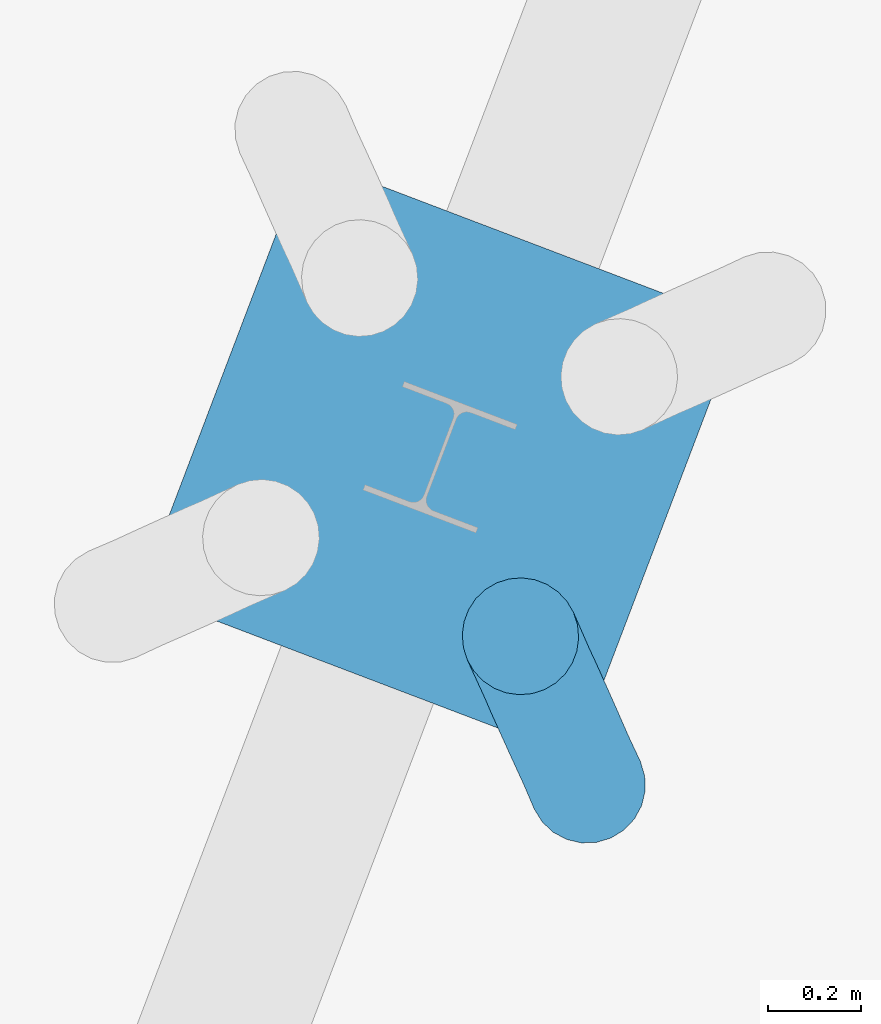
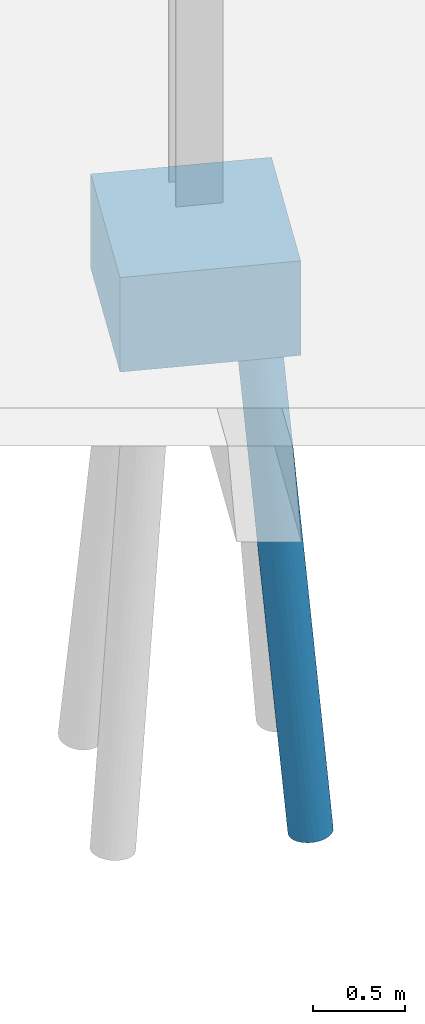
# One storey, part 14 of 46: 1 footing, 1 pile.
"""IFC2X3 building model written with IfcOpenShell, lengths in millimetres."""

from ifc_helpers import new_model, entity, si_unit, converted_unit, derived_unit, direction, frame, origin, origin_2d_with_axis, place, context, subcontext, project, spatial, rectangle, extrude, faceted_brep, source, transform, mapped, material, type_object, type_shapes, element, save


model = new_model("IFC2X3")

# Units and contexts
model_context = context("Model", 3, precision=0.01, world=origin(), true_north=direction((6.123233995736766e-17, 1.0)))
body_context = subcontext(model_context, "Body", "Model", "MODEL_VIEW")
ifc_project = project(units=[si_unit("LENGTHUNIT", "METRE", prefix="MILLI"), converted_unit("PLANEANGLEUNIT", "DEGREE", entity("IfcPlaneAngleMeasure", 0.017453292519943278), si_unit("PLANEANGLEUNIT", "RADIAN"), dimensions=[0, 0, 0, 0, 0, 0, 0]), si_unit("AREAUNIT", "SQUARE_METRE"), derived_unit("THERMALTRANSMITTANCEUNIT", [(si_unit("MASSUNIT", "GRAM", prefix="KILO"), 1), (si_unit("THERMODYNAMICTEMPERATUREUNIT", "KELVIN"), -1), (si_unit("TIMEUNIT", "SECOND"), -3)])], contexts=[model_context])

# Site, building, storey
site_placement = place(None, frame((-72937.88054949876, 11621.45624098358, 0.0), z_axis=(0.0, 0.0, 1.0), x_axis=(0.9346418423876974, -0.35559053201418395, 0.0)))
site = spatial("IfcSite", under=ifc_project, at=site_placement, Name="Default", CompositionType="ELEMENT")
building_placement = place(site_placement, origin())
building = spatial("IfcBuilding", under=site, at=building_placement, CompositionType="ELEMENT")
storey_placement = place(building_placement, origin())
storey = spatial("IfcBuildingStorey", under=building, at=storey_placement, Name="00 begane grond", CompositionType="ELEMENT", Elevation=0.0)

# Footing
ifc_material_1 = material(Name="beton_gewapend_ihw")
type_product_1 = type_object("IfcTypeProduct", Name="poer 1000x1000x800mm", material=ifc_material_1)
shared_shape_1 = source(origin(), body_context, "Body", "SweptSolid", [
    extrude(rectangle(XDim=999.999999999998, YDim=999.999999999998, at=origin_2d_with_axis()), frame((57570.0, 28760.0, -800.0), z_axis=(0.0, 0.0, 1.0), x_axis=(-1.0, 0.0, 0.0)), (0.0, 0.0, 1.0), 630.0000000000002),
])
type_shapes(type_product_1, [shared_shape_1])
footing_placement = place(storey_placement, frame((0.0, 0.0, -60.0)))
element("IfcFooting", 1, at=footing_placement, inside=storey, type_object=type_product_1, material=ifc_material_1, Name="16.13_Poer rechthoek", ObjectType="betonpoer rechthoekig", PredefinedType="PILE_CAP", context=body_context, shape_type="MappedRepresentation", body=[
    mapped(shared_shape_1, transform((0.0, 0.0, 0.0), scale=1.0)),
])

# Pile
ifc_material_2 = material(Name="beton_gewapend_prefab-element_c45/55")
type_product_2 = type_object("IfcTypeProduct", Name="Type 01", material=ifc_material_2)
shared_shape_2 = source(origin(), body_context, "Body", "Brep", [
    faceted_brep([(-21.492869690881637, -34.07967924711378, -2142.478153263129), (41.770052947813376, 0.0, -1615.9926657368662), (50.02983679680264, -41.219149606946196, -1478.3429510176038), (-120.39371842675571, -27.815116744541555, -840.0), (-209.76851175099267, 0.0, -1615.9934634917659), (-196.5141812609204, -41.35907440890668, -1560.4595682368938), (-88.87736384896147, -91.39060439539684, -2432.143714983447), (-29.01608810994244, -89.9027707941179, -1907.5825387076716), (-105.46135978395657, -105.60554685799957, -2414.744852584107), (115.53639022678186, -54.235467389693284, -840.0), (100.55257203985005, -77.93622523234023, -840.0), (44.04069234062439, -66.4881713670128, -1422.150587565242), (-241.29781855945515, -62.499999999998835, -4011.9545633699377), (-228.8866429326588, -32.35238063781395, -4013.333582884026), (-181.63351961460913, -47.83542906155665, -3540.4622999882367), (127.99146025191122, 0.0, -840.0), (124.838162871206, -27.815116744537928, -840.0), (56.79144948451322, -112.62110848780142, -840.0), (-1.0422673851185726, -115.29700921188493, -1306.634534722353), (80.6380595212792, -97.7289353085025, -840.0), (-148.00042706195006, -121.55050259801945, -1927.9224619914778), (-119.59016639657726, -124.7753227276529, -1868.475336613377), (-82.66188090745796, -124.23733970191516, -1479.1096584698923), (2.222222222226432, -125.0, -840.0), (-25.764066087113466, -121.86598902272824, -840.0), (35.238837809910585, -88.30507823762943, -1343.9943162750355), (-38.428481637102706, -123.46402257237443, -1382.7576650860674), (30.208510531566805, -121.86598902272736, -840.0), (-105.46067851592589, -124.17311504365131, -1939.1271630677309), (-121.64165871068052, -118.88184081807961, -2304.5646505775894), (-59.29822656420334, -117.91120533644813, -1769.4495348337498), (-224.65342205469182, 0.0, -4013.803940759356), (-181.5427184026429, 0.0, -3625.8076078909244), (-187.86059930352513, -76.09517863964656, -3448.7603995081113), (-111.16783038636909, -79.40373738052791, -2734.720867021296), (-186.42266103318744, -99.1691675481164, -3226.87509877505), (-381.04339378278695, -120.74072828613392, -3996.4272772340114), (-348.8888888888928, -125.0, -4000.0), (-294.25946310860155, -123.9306076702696, -3360.589550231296), (-119.53291308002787, -47.835429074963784, -2981.55684112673), (-105.13946974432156, -22.11026756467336, -2920.330251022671), (-71.50265177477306, -37.61355729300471, -2582.985799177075), (-160.26870491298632, -23.53094104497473, -3414.1045295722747), (-286.7711554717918, -108.25317547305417, -4006.901970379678), (-238.88036705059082, -115.48494156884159, -3443.09153660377), (-261.04114782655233, -88.38834764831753, -4009.7608601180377), (-316.7343839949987, -120.74072828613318, -4003.5727227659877), (-84.00174733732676, -60.02171841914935, -2608.908596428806), (-61.65923548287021, -74.64816535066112, -2322.8523974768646), (-173.2739820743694, -115.31995815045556, -2856.223431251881), (-151.97718420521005, -123.99260475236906, -2371.2114813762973), (-123.54701580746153, 0.0, -840.0), (-250.82857575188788, -22.617884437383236, -2004.2180489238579), (-295.9900076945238, 0.0, -2391.986926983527), (-52.347005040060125, -112.6211084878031, -840.0), (-76.19361507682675, -97.72893530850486, -840.0), (-107.44397040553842, -105.89787173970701, -1225.6035634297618), (-281.4812245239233, -123.93060767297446, -3541.076638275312), (-109.06614769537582, -117.5733672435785, -1457.2474766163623), (-111.0919457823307, -54.235467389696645, -840.0), (-15.85514051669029, -105.72630914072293, -1606.5585830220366), (-146.68659472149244, -88.47759853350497, -1380.5978408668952), (-158.7756678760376, -105.96661342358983, -1688.5825591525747), (-348.5966640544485, -22.310072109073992, -2883.621631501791), (-384.5571817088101, 0.0, -3189.0914931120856), (-404.9818286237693, -23.95962394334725, -3393.9013620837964), (-416.2874807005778, -47.83542904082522, -3560.826702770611), (-468.89113484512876, -32.35238063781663, -3986.6664171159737), (-456.47995921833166, -62.500000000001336, -3988.0454366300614), (-337.6622645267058, -115.48494156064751, -3465.7921474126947), (-411.00662230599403, -108.25317547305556, -3993.0980296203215), (-255.6918544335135, -84.13968982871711, -2324.129304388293), (-241.96823570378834, -100.09571921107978, -2359.7174741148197), (-204.57839676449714, -89.69967503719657, -1912.8684599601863), (-96.10812759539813, -77.93622523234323, -840.0), (-436.73662995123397, -88.38834764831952, -3990.239139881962), (-377.92930595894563, -99.16916753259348, -3572.292603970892), (-206.96183482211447, -60.377923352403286, -1731.5361763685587), (-358.429549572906, -47.83542903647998, -3040.1053226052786), (-296.17437932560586, -43.53585544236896, -2464.518236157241), (-379.61635653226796, -76.09517861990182, -3378.5322028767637), (-430.0136077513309, 0.0, -3598.199327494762), (-306.35511538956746, -77.61365432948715, -2729.9013330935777), (-213.4617402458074, -118.14633713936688, -2411.4959163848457), (-159.2186646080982, -65.41382269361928, -1328.4086999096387), (-67.97340634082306, -109.92592992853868, -2010.6352011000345), (-179.43548008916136, -124.76102802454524, -2404.9604566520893), (-13.219750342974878, -66.34050229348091, -1938.3332116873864), (-236.17409644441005, -124.51562049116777, -2886.015168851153), (-268.30597333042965, -110.23172722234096, -2741.026078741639), (-270.10864031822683, -119.49229851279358, -2958.6820679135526), (-320.7170568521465, -99.16916752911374, -3057.382361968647), (-473.12435572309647, 0.0, -3986.1960592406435), (-138.91569201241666, -99.37675608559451, -2796.855638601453), (-220.46267944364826, -123.93060767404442, -2991.9097324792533), (-44.45135435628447, 0.0, -2391.9853314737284), (-247.15908292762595, -66.69543969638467, -2127.0964328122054), (-134.55238820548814, 0.0, -3202.894636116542), (-89.50217198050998, 0.0, -2797.4426900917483), (-303.09738986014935, -21.900839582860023, -2473.4623287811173), (-340.273594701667, 0.0, -2790.539210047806), (-246.59414544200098, -45.75852255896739, -2025.9931784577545), (124.83816287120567, 27.815116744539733, -840.0), (115.53639022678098, 54.23546738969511, -840.0), (100.55257203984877, 77.93622523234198, -840.0), (80.63805952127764, 97.72893530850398, -840.0), (56.7914494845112, 112.62110848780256, -840.0), (30.20851053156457, 121.86598902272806, -840.0), (2.222222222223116, 125.0, -840.0), (-25.764066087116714, 121.86598902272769, -840.0), (-52.3470050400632, 112.62110848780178, -840.0), (-76.19361507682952, 97.72893530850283, -840.0), (-96.1081275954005, 77.93622523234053, -840.0), (-111.09194578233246, 54.23546738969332, -840.0), (-120.39371842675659, 27.815116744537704, -840.0), (-213.46174017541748, 118.14633716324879, -2411.4959163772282), (-268.3059732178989, 110.23172722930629, -2741.0260778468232), (-241.96823566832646, 100.09571920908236, -2359.717473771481), (-187.14229973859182, 67.59575846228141, -1592.137482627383), (-196.5141812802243, 41.359074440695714, -1560.4595685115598), (-82.66188086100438, 124.23733970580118, -1479.1096583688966), (-29.016087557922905, 89.90277069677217, -1907.5825346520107), (35.23883807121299, 88.30507821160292, -1343.9943141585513), (-13.219750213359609, 66.3405022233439, -1938.3332109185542), (-109.06614766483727, 117.57336725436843, -1457.2474766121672), (-381.04339378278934, 120.74072828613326, -3996.4272772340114), (-337.6622645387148, 115.48494156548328, -3465.7921476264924), (-294.2594631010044, 123.93060767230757, -3360.5895503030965), (-377.9293059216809, 99.16916753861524, -3572.292603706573), (-379.61635651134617, 76.09517863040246, -3378.53220276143), (-320.717056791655, 99.16916754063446, -3057.382361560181), (-286.77115547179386, 108.25317547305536, -4006.901970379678), (-238.88036707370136, 115.48494156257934, -3443.0915369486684), (-186.42266103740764, 99.16916753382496, -3226.875098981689), (-241.29781855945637, 62.50000000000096, -4011.9545633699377), (-181.63351956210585, 47.835429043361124, -3540.4622995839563), (-228.88664293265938, 32.352380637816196, -4013.333582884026), (-107.44397039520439, 105.89787175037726, -1225.6035634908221), (-38.428481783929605, 123.46402262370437, -1382.7576634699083), (-468.89113484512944, 32.35238063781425, -3986.6664171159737), (-173.2739821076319, 115.31995832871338, -2856.223427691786), (-138.91569233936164, 99.37675620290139, -2796.855640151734), (-160.26870486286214, 23.530941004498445, -3414.104529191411), (-261.041147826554, 88.38834764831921, -4009.7608601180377), (-187.86059935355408, 76.09517862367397, -3448.760400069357), (-306.35511542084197, 77.61365434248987, -2729.9013334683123), (-348.8888888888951, 125.0, -4000.0), (-456.47995921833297, 62.49999999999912, -3988.0454366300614), (-416.2874806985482, 47.83542904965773, -3560.826702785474), (-411.0066223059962, 108.25317547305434, -3993.0980296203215), (-436.7366299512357, 88.38834764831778, -3990.239139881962), (-84.00174724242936, 60.02171839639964, -2608.9085956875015), (-21.492869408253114, 34.07967918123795, -2142.4781508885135), (-71.50265159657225, 37.613557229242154, -2582.9857977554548), (-220.46267940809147, 123.93060767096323, -2991.909732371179), (-281.48122449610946, 123.9306076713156, -3541.07663813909), (-148.0004270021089, 121.5505026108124, -1927.922461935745), (-158.7756678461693, 105.9666134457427, -1688.5825592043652), (-15.85514048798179, 105.72630911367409, -1606.5585831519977), (-59.298225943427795, 117.91120535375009, -1769.449528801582), (-1.0422669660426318, 115.29700910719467, -1306.634533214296), (-270.1086403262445, 119.49229851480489, -2958.682068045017), (50.02983688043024, 41.21914955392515, -1478.342950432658), (-146.6865947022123, 88.47759855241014, -1380.5978408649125), (-358.42954957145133, 47.83542905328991, -3040.1053226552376), (-348.59666404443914, 22.310072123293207, -2883.6216314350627), (-296.1743793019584, 43.535855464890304, -2464.5182360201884), (57.21126448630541, 65.80573689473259, -1307.4694469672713), (-121.64165783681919, 118.88184074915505, -2304.564644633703), (-67.97340649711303, 109.92593000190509, -2010.6352012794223), (-105.13946990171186, 22.110267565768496, -2920.330252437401), (-179.4354799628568, 124.7610280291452, -2404.960456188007), (-316.73438399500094, 120.7407282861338, -4003.5727227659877), (-119.53291301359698, 47.8354290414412, -2981.5568406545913), (-250.82857577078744, 22.617884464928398, -2004.2180491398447), (-404.98182862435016, 23.959623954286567, -3393.9013621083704), (-61.65923550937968, 74.64816548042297, -2322.852396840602), (-243.17628094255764, 45.971171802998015, -1995.991919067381), (-105.46135971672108, 105.60554680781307, -2414.7448526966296), (-111.16783063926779, 79.40373735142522, -2734.7208695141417), (-119.59016630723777, 124.7753227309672, -1868.4753363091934), (-236.17409637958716, 124.515620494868, -2886.0151686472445), (-204.5783966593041, 89.69967507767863, -1912.8684593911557), (-247.1590829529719, 66.69543974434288, -2127.0964333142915), (-88.87736442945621, 91.39060438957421, -2432.1437202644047), (-255.69185439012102, 84.13968979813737, -2324.1293037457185), (-168.1781585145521, 123.85607816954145, -2526.387901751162), (-105.46067843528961, 124.17311503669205, -1939.1271628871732), (-303.0973898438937, 21.90083960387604, -2473.4623286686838)], [[[0, 1, 2]], [[3, 4, 5]], [[6, 7, 8]], [[9, 10, 11]], [[12, 13, 14]], [[1, 15, 16]], [[17, 18, 19]], [[20, 21, 22]], [[22, 23, 24]], [[10, 19, 25]], [[26, 18, 27]], [[23, 22, 26]], [[28, 29, 30]], [[13, 31, 32]], [[33, 34, 35]], [[36, 37, 38]], [[39, 40, 41]], [[14, 42, 39]], [[43, 35, 44]], [[33, 35, 45]], [[43, 44, 46]], [[47, 48, 34]], [[49, 29, 50]], [[3, 51, 4]], [[30, 26, 28]], [[52, 4, 53]], [[54, 55, 56]], [[57, 38, 37]], [[58, 24, 54]], [[57, 37, 46]], [[3, 5, 59]], [[2, 16, 9]], [[4, 52, 5]], [[25, 60, 7]], [[45, 35, 43]], [[61, 62, 56]], [[63, 64, 65]], [[66, 67, 68]], [[69, 36, 38]], [[36, 69, 70]], [[71, 72, 73]], [[61, 55, 74]], [[75, 70, 76]], [[61, 77, 73]], [[63, 78, 79]], [[75, 76, 80]], [[64, 81, 65]], [[78, 80, 82]], [[75, 80, 68]], [[72, 83, 62]], [[5, 84, 59]], [[29, 8, 85]], [[11, 10, 25]], [[28, 21, 86]], [[45, 12, 33]], [[49, 44, 35]], [[58, 54, 56]], [[22, 58, 20]], [[0, 2, 87]], [[1, 16, 2]], [[88, 86, 83]], [[39, 42, 40]], [[89, 69, 90]], [[74, 59, 84]], [[62, 73, 72]], [[82, 80, 91]], [[66, 80, 78]], [[14, 33, 12]], [[67, 81, 92]], [[34, 33, 39]], [[39, 41, 47]], [[34, 6, 93]], [[35, 93, 49]], [[57, 44, 94]], [[90, 69, 38]], [[76, 69, 91]], [[34, 39, 47]], [[1, 0, 95]], [[72, 82, 91]], [[82, 96, 79]], [[72, 91, 89]], [[62, 61, 73]], [[32, 42, 13]], [[33, 14, 39]], [[44, 57, 46]], [[38, 57, 94]], [[42, 32, 97]], [[42, 97, 40]], [[13, 42, 14]], [[40, 97, 98, 95]], [[41, 95, 0]], [[61, 56, 55]], [[58, 56, 62]], [[20, 62, 83]], [[24, 58, 22]], [[62, 20, 58]], [[20, 83, 86]], [[83, 90, 88]], [[28, 50, 29]], [[90, 38, 88]], [[89, 90, 83]], [[95, 41, 40]], [[47, 0, 87]], [[0, 47, 41]], [[48, 47, 87]], [[7, 48, 87]], [[6, 34, 48]], [[87, 2, 11]], [[7, 60, 85]], [[60, 25, 19]], [[11, 7, 87]], [[7, 6, 48]], [[93, 6, 8]], [[93, 8, 49]], [[34, 93, 35]], [[29, 49, 8]], [[94, 44, 49]], [[30, 85, 60]], [[28, 86, 50]], [[18, 30, 60]], [[18, 26, 30]], [[23, 26, 27]], [[21, 26, 22]], [[19, 18, 60]], [[18, 17, 27]], [[77, 61, 84]], [[71, 96, 82]], [[72, 89, 83]], [[69, 89, 91]], [[38, 94, 88]], [[50, 88, 94]], [[80, 66, 68]], [[65, 67, 66]], [[78, 63, 65]], [[67, 65, 81]], [[78, 65, 66]], [[78, 82, 79]], [[99, 100, 63]], [[79, 101, 52]], [[99, 63, 79]], [[69, 76, 70]], [[80, 76, 91]], [[96, 71, 73]], [[82, 72, 71]], [[29, 85, 30]], [[7, 85, 8]], [[99, 52, 53]], [[101, 79, 96]], [[77, 84, 5]], [[74, 84, 61]], [[86, 21, 20]], [[26, 21, 28]], [[9, 11, 2]], [[7, 11, 25]], [[88, 50, 86]], [[49, 50, 94]], [[52, 99, 79]], [[100, 64, 63]], [[100, 99, 53]], [[77, 101, 96]], [[5, 52, 101]], [[101, 77, 5]], [[73, 77, 96]], [[24, 23, 27, 17, 19, 10, 9, 16, 15, 102, 103, 104, 105, 106, 107, 108, 109, 110, 111, 112, 113, 114, 51, 3, 59, 74, 55, 54]], [[51, 114, 4]], [[115, 116, 117]], [[118, 113, 112]], [[119, 114, 113]], [[120, 109, 108]], [[121, 122, 123]], [[120, 124, 109]], [[125, 126, 127]], [[128, 129, 130]], [[131, 132, 133]], [[134, 135, 136]], [[137, 111, 110]], [[138, 108, 107]], [[139, 92, 81]], [[140, 141, 133]], [[142, 97, 32]], [[143, 133, 144]], [[130, 129, 145]], [[146, 125, 127]], [[147, 139, 148]], [[149, 150, 128]], [[151, 152, 153]], [[154, 155, 127]], [[124, 156, 157]], [[158, 159, 160]], [[4, 114, 119]], [[160, 107, 106]], [[161, 127, 126]], [[103, 102, 162]], [[158, 160, 105]], [[111, 137, 163]], [[164, 165, 166]], [[105, 104, 122]], [[102, 15, 1]], [[167, 103, 162]], [[167, 123, 122]], [[168, 159, 169]], [[170, 97, 142]], [[115, 156, 171]], [[155, 172, 146]], [[163, 118, 112]], [[169, 159, 158]], [[111, 163, 112]], [[143, 131, 133]], [[130, 145, 117]], [[134, 143, 144]], [[123, 162, 152]], [[129, 150, 147]], [[173, 151, 153]], [[119, 174, 4]], [[148, 175, 164]], [[121, 123, 176]], [[166, 174, 177]], [[140, 168, 178]], [[131, 172, 132]], [[144, 179, 173]], [[171, 156, 180]], [[124, 157, 137]], [[102, 1, 162]], [[152, 1, 95]], [[125, 149, 126]], [[136, 32, 31]], [[115, 181, 161]], [[182, 157, 117]], [[118, 183, 177]], [[148, 129, 147]], [[164, 166, 145]], [[155, 132, 172]], [[164, 175, 165]], [[141, 140, 178]], [[179, 144, 133]], [[135, 144, 173]], [[178, 184, 141]], [[151, 176, 123]], [[128, 126, 149]], [[161, 116, 115]], [[1, 152, 162]], [[95, 170, 153]], [[164, 145, 129]], [[163, 157, 182]], [[185, 183, 182]], [[115, 117, 157]], [[144, 135, 134]], [[142, 136, 135]], [[127, 155, 146]], [[132, 155, 154]], [[173, 170, 142]], [[136, 142, 32]], [[173, 142, 135]], [[153, 170, 173]], [[170, 95, 98, 97]], [[110, 109, 124]], [[163, 137, 157]], [[124, 137, 110]], [[156, 124, 120]], [[180, 156, 120]], [[157, 156, 115]], [[186, 187, 168]], [[161, 181, 127]], [[116, 126, 130]], [[181, 115, 171]], [[173, 179, 151]], [[95, 153, 152]], [[176, 151, 179]], [[152, 151, 123]], [[179, 184, 176]], [[178, 169, 121]], [[121, 176, 184]], [[158, 105, 122]], [[103, 167, 104]], [[158, 122, 121]], [[141, 179, 133]], [[121, 184, 178]], [[179, 141, 184]], [[140, 133, 132]], [[132, 154, 140]], [[181, 186, 154]], [[186, 140, 154]], [[168, 187, 159]], [[138, 159, 187]], [[107, 160, 138]], [[180, 138, 187]], [[108, 138, 120]], [[138, 160, 159]], [[105, 160, 106]], [[185, 182, 117]], [[118, 182, 183]], [[126, 116, 161]], [[117, 116, 130]], [[186, 181, 171]], [[154, 127, 181]], [[81, 175, 139]], [[129, 148, 164]], [[175, 81, 64]], [[175, 64, 165]], [[139, 175, 148]], [[165, 64, 100]], [[166, 183, 145]], [[165, 188, 166]], [[174, 53, 4]], [[129, 128, 150]], [[126, 128, 130]], [[117, 145, 185]], [[183, 185, 145]], [[121, 169, 158]], [[168, 169, 178]], [[177, 174, 119]], [[188, 174, 166]], [[113, 118, 119]], [[182, 118, 163]], [[138, 180, 120]], [[171, 180, 187]], [[123, 167, 162]], [[104, 167, 122]], [[187, 186, 171]], [[140, 186, 168]], [[100, 188, 165]], [[188, 100, 53]], [[174, 188, 53]], [[118, 177, 119]], [[166, 177, 183]], [[146, 172, 131, 143, 134, 136, 31, 13, 12, 45, 43, 46, 37, 36, 70, 75, 68, 67, 92, 139, 147, 150, 149, 125]]]),
])
type_shapes(type_product_2, [shared_shape_2])
pile_placement = place(storey_placement, frame((57870.0, 28460.0, 0.0), z_axis=(0.0, 0.0, 1.0), x_axis=(-0.7071067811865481, 0.707106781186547, 0.0)))
element("IfcPile", 2, at=pile_placement, inside=storey, type_object=type_product_2, material=ifc_material_2, Name="17.21_Prefab funderingspaal rond", ObjectType="prefab paal rond", PredefinedType="NOTDEFINED", context=body_context, shape_type="MappedRepresentation", body=[
    mapped(shared_shape_2, transform((0.0, 0.0, 0.0), scale=1.0)),
])

save(model, "model.ifc")
